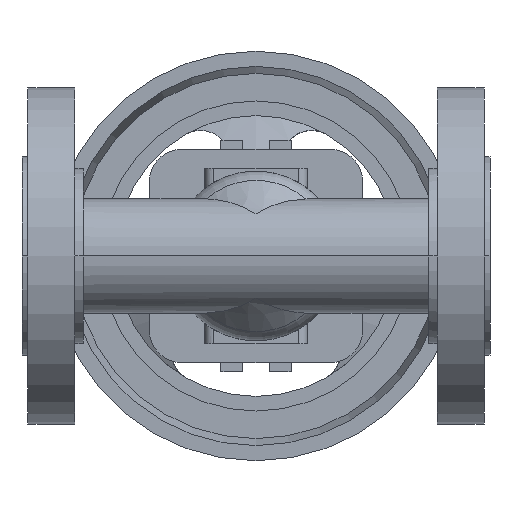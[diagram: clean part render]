
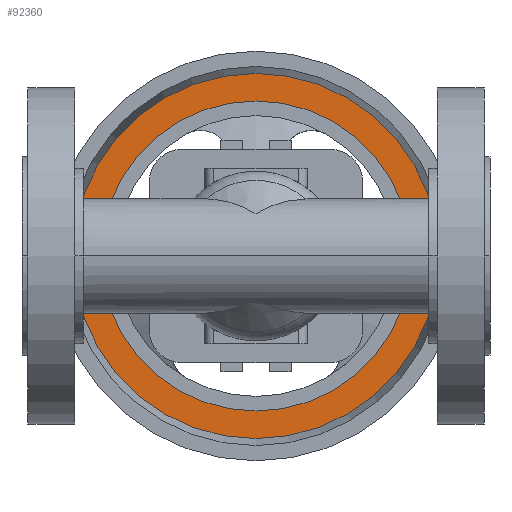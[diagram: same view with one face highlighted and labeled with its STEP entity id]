
A CAD part, front view. The second image highlights one B-rep face of the part: STEP entity #92360.
In plain terms, the highlighted planar face has unit normal (0, -1, 0).
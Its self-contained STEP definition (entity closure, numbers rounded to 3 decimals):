
#91810=CARTESIAN_POINT('',(142.412,245.8,0.))
;
#91820=VERTEX_POINT('',#91810);
#91850=CARTESIAN_POINT('',(80.,245.8,0.));
#91860=DIRECTION('',(0.,1.,0.));
#91870=DIRECTION('',(-1.,0.,0.));
#91880=AXIS2_PLACEMENT_3D('',#91850,#91860,#91870);
#91890=CIRCLE('',#91880,62.412);
#91900=CARTESIAN_POINT('',(17.588,245.8,0.));
#91910=VERTEX_POINT('',#91900);
#91920=EDGE_CURVE('',#91910,#91820,#91890,.T.);
#92110=CARTESIAN_POINT('',(22.294,245.8,0.))
;
#92120=DIRECTION('',(0.,-1.,0.));
#92130=DIRECTION('',(1.,0.,0.));
#92140=AXIS2_PLACEMENT_3D('',#92110,#92120,#92130);
#92150=PLANE('',#92140);
#92160=EDGE_CURVE('',#91820,#91910,#91890,.T.);
#92170=ORIENTED_EDGE('',*,*,#92160,.F.);
#92180=ORIENTED_EDGE('',*,*,#91920,.F.);
#92190=EDGE_LOOP('',(#92180,#92170));
#92200=FACE_OUTER_BOUND('',#92190,.T.);
#92210=CARTESIAN_POINT('',(80.,245.8,0.));
#92220=DIRECTION('',(0.,1.,0.));
#92230=DIRECTION('',(-1.,0.,0.));
#92240=AXIS2_PLACEMENT_3D('',#92210,#92220,#92230);
#92250=CIRCLE('',#92240,53.);
#92260=CARTESIAN_POINT('',(27.,245.8,0.));
#92270=VERTEX_POINT('',#92260);
#92280=CARTESIAN_POINT('',(133.,245.8,0.));
#92290=VERTEX_POINT('',#92280);
#92300=EDGE_CURVE('',#92270,#92290,#92250,.T.);
#92310=ORIENTED_EDGE('',*,*,#92300,.T.);
#92320=EDGE_CURVE('',#92290,#92270,#92250,.T.);
#92330=ORIENTED_EDGE('',*,*,#92320,.T.);
#92340=EDGE_LOOP('',(#92330,#92310));
#92350=FACE_BOUND('',#92340,.T.);
#92360=ADVANCED_FACE('',(#92200,#92350),#92150,.T.);
